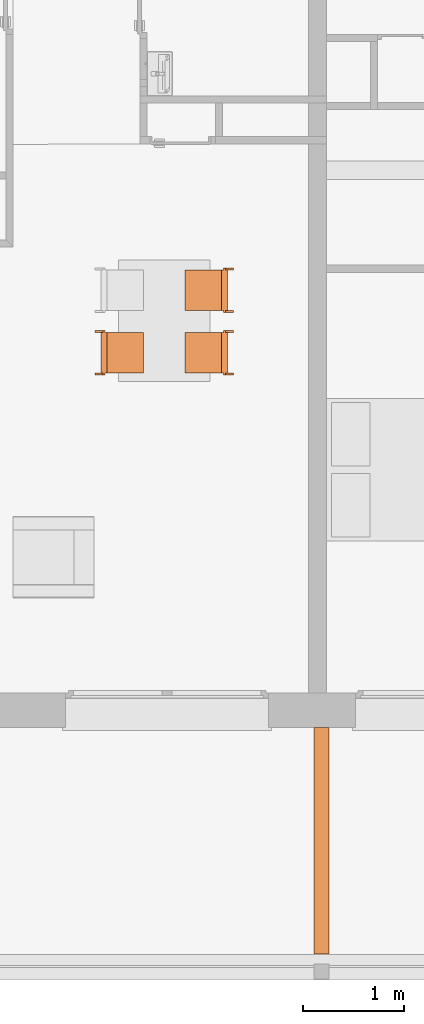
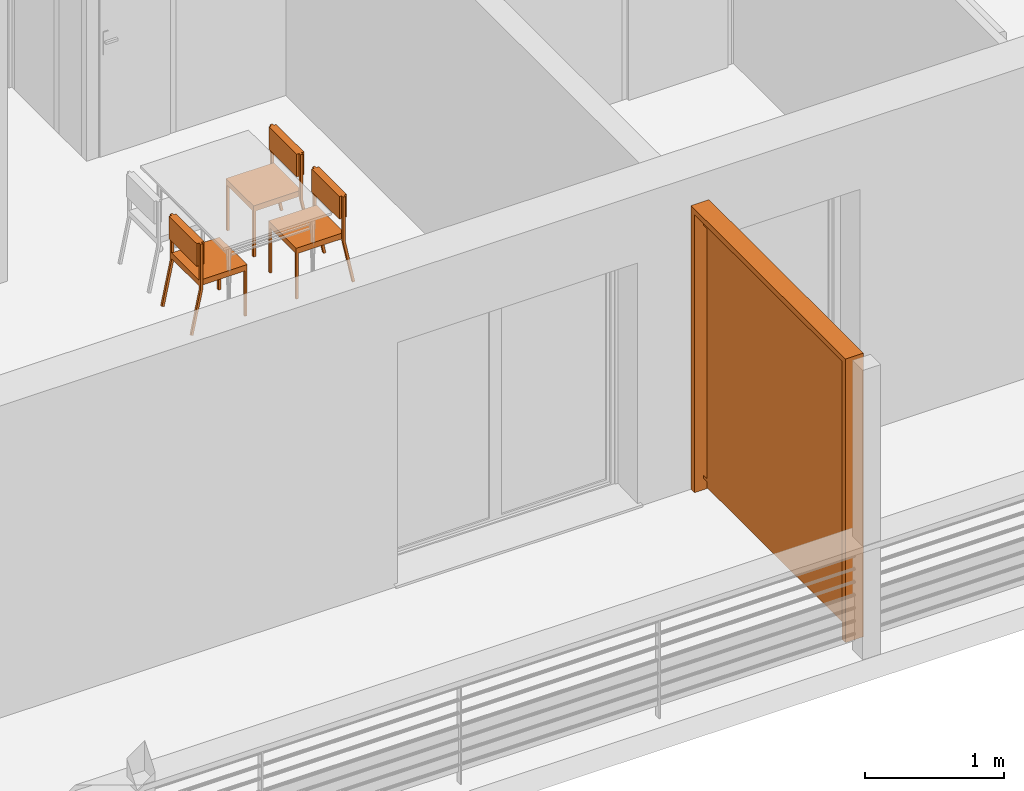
# One storey, part 137 of 164: 4 proxies.
"""IFC2X3 building model written with IfcOpenShell, lengths in millimetres."""

from ifc_helpers import new_model, entity, si_unit, converted_unit, derived_unit, money_unit, direction, frame, origin_with_axes, place, context, subcontext, project, spatial, open_shell, faceted_brep, surface_model, source, transform, mapped, type_object, element, save


model = new_model("IFC2X3")

# Units and contexts
model_context = context("Model", 3, precision=0.01, world=origin_with_axes(), true_north=direction((0.0, 1.0)))
body_context = subcontext(model_context, "Body", "Model", "MODEL_VIEW")
ifc_project = project(units=[si_unit("LENGTHUNIT", "METRE", prefix="MILLI"), si_unit("AREAUNIT", "SQUARE_METRE"), si_unit("VOLUMEUNIT", "CUBIC_METRE"), converted_unit("PLANEANGLEUNIT", "DEGREE", entity("IfcPlaneAngleMeasure", 0.0174532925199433), si_unit("PLANEANGLEUNIT", "RADIAN"), dimensions=[0, 0, 0, 0, 0, 0, 0]), money_unit("USD"), converted_unit("TIMEUNIT", "Year", entity("IfcTimeMeasure", 31557600.0), si_unit("TIMEUNIT", "SECOND"), dimensions=[0, 0, 1, 0, 0, 0, 0]), si_unit("MASSUNIT", "GRAM", prefix="KILO"), si_unit("THERMODYNAMICTEMPERATUREUNIT", "DEGREE_CELSIUS"), si_unit("LUMINOUSINTENSITYUNIT", "LUMEN"), si_unit("ENERGYUNIT", "JOULE", prefix="MEGA"), derived_unit("THERMALCONDUCTANCEUNIT", [(si_unit("POWERUNIT", "WATT"), 1), (si_unit("LENGTHUNIT", "METRE"), -1), (si_unit("THERMODYNAMICTEMPERATUREUNIT", "KELVIN"), -1)]), derived_unit("SPECIFICHEATCAPACITYUNIT", [(si_unit("ENERGYUNIT", "JOULE"), 1), (si_unit("MASSUNIT", "GRAM", prefix="KILO"), -1), (si_unit("THERMODYNAMICTEMPERATUREUNIT", "KELVIN"), -1)]), derived_unit("MASSDENSITYUNIT", [(si_unit("MASSUNIT", "GRAM", prefix="KILO"), 1), (si_unit("VOLUMEUNIT", "CUBIC_METRE"), -1)])], contexts=[model_context])

# Site, building, storey
site_placement = place(None, origin_with_axes())
site = spatial("IfcSite", under=ifc_project, at=site_placement, Name="Site", CompositionType="ELEMENT")
building_placement = place(site_placement, origin_with_axes())
building = spatial("IfcBuilding", under=site, at=building_placement, Name="Bâtiment", CompositionType="ELEMENT")
storey_placement = place(building_placement, frame((0.0, 0.0, 5750.0), z_axis=(0.0, 0.0, 1.0), x_axis=(1.0, 0.0, 0.0)))
storey = spatial("IfcBuildingStorey", under=building, at=storey_placement, Name="Etage1", CompositionType="ELEMENT", Elevation=5750.0)

# Proxies
building_element_proxy_type = type_object("IfcBuildingElementProxyType", PredefinedType="NOTDEFINED")
shared_shape_1 = source(origin_with_axes(), body_context, "Body", "Brep", [
    faceted_brep([(39.99999978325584, 0.0, 0.0), (19.99999989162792, 0.0, 0.0), (19.99999989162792, 19.99999936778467, 0.0), (39.99999978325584, 19.99999936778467, 0.0), (39.99999978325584, 0.0, 400.0), (19.99999989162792, 0.0, 400.0), (19.99999989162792, 19.99999936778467, 400.0), (39.99999978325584, 19.99999936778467, 400.0)], [[[0, 1, 2, 3]], [[1, 0, 4, 5]], [[2, 1, 5, 6]], [[3, 2, 6, 7]], [[0, 3, 7, 4]], [[5, 4, 7, 6]]]),
    faceted_brep([(419.9999977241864, 0.0, 0.0), (399.9999978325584, 0.0, 0.0), (399.9999978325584, 19.99999936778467, 0.0), (419.9999977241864, 19.99999936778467, 0.0), (419.9999977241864, 0.0, 400.0), (399.9999978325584, 0.0, 400.0), (399.9999978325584, 19.99999936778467, 400.0), (419.9999977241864, 19.99999936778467, 400.0)], [[[0, 1, 2, 3]], [[1, 0, 4, 5]], [[2, 1, 5, 6]], [[3, 2, 6, 7]], [[0, 3, 7, 4]], [[5, 4, 7, 6]]]),
    faceted_brep([(399.9999978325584, 0.0, 400.0000000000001), (39.99999978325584, 0.0, 400.0000000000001), (39.99999978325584, 19.99999936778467, 400.0000000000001), (399.9999978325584, 19.99999936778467, 400.0000000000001), (399.9999978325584, 0.0, 420.0000000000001), (39.99999978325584, 0.0, 420.0000000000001), (39.99999978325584, 19.99999936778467, 420.0000000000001), (399.9999978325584, 19.99999936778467, 420.0000000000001)], [[[0, 1, 2, 3]], [[1, 0, 4, 5]], [[2, 1, 5, 6]], [[3, 2, 6, 7]], [[0, 3, 7, 4]], [[5, 4, 7, 6]]]),
    faceted_brep([(39.99999978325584, 19.99999936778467, 400.0000000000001), (19.99999989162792, 19.99999936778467, 400.0000000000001), (19.99999989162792, 379.9999879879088, 400.0000000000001), (39.99999978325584, 379.9999879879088, 400.0000000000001), (39.99999978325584, 19.99999936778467, 420.0000000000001), (19.99999989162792, 19.99999936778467, 420.0000000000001), (19.99999989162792, 379.9999879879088, 420.0000000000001), (39.99999978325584, 379.9999879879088, 420.0000000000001)], [[[0, 1, 2, 3]], [[1, 0, 4, 5]], [[2, 1, 5, 6]], [[3, 2, 6, 7]], [[0, 3, 7, 4]], [[5, 4, 7, 6]]]),
    faceted_brep([(419.9999977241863, 379.9999879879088, 400.0000000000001), (19.99999989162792, 379.9999879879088, 400.0000000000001), (19.99999989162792, 399.9999873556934, 400.0000000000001), (419.9999977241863, 399.9999873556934, 400.0000000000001), (419.9999977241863, 379.9999879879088, 420.0000000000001), (19.99999989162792, 379.9999879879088, 420.0000000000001), (19.99999989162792, 399.9999873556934, 420.0000000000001), (419.9999977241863, 399.9999873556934, 420.0000000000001)], [[[0, 1, 2, 3]], [[1, 0, 4, 5]], [[2, 1, 5, 6]], [[3, 2, 6, 7]], [[0, 3, 7, 4]], [[5, 4, 7, 6]]]),
    faceted_brep([(419.9999977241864, 19.99999936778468, 400.0000000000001), (399.9999978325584, 19.99999936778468, 400.0000000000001), (399.9999978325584, 379.9999879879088, 400.0000000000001), (419.9999977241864, 379.9999879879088, 400.0000000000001), (419.9999977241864, 19.99999936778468, 420.0000000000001), (399.9999978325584, 19.99999936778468, 420.0000000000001), (399.9999978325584, 379.9999879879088, 420.0000000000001), (419.9999977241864, 379.9999879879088, 420.0000000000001)], [[[0, 1, 2, 3]], [[1, 0, 4, 5]], [[2, 1, 5, 6]], [[3, 2, 6, 7]], [[0, 3, 7, 4]], [[5, 4, 7, 6]]]),
    faceted_brep([(419.9999977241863, 0.0, 400.0), (19.99999989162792, 0.0, 400.0), (19.99999989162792, 399.9999873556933, 400.0), (419.9999977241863, 399.9999873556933, 400.0), (419.9999977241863, 0.0, 450.0), (19.99999989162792, 0.0, 450.0), (19.99999989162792, 399.9999873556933, 450.0), (419.9999977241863, 399.9999873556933, 450.0)], [[[0, 1, 2, 3]], [[1, 0, 4, 5]], [[2, 1, 5, 6]], [[3, 2, 6, 7]], [[0, 3, 7, 4]], [[5, 4, 7, 6]]]),
    faceted_brep([(19.99999989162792, 379.9999879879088, 380.0), (0.0, 379.9999879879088, 380.0), (0.0, 399.9999873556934, 380.0), (19.99999989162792, 399.9999873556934, 380.0), (19.99999989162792, 379.9999879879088, 780.0), (0.0, 379.9999879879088, 780.0), (0.0, 399.9999873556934, 780.0), (19.99999989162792, 399.9999873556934, 780.0)], [[[0, 1, 2, 3]], [[1, 0, 4, 5]], [[2, 1, 5, 6]], [[3, 2, 6, 7]], [[0, 3, 7, 4]], [[5, 4, 7, 6]]]),
    faceted_brep([(439.9999976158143, 379.9999879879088, 380.0), (419.9999977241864, 379.9999879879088, 380.0), (419.9999977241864, 399.9999873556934, 380.0), (439.9999976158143, 399.9999873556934, 380.0), (439.9999976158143, 379.9999879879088, 780.0), (419.9999977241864, 379.9999879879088, 780.0), (419.9999977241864, 399.9999873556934, 780.0), (439.9999976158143, 399.9999873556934, 780.0)], [[[0, 1, 2, 3]], [[1, 0, 4, 5]], [[2, 1, 5, 6]], [[3, 2, 6, 7]], [[0, 3, 7, 4]], [[5, 4, 7, 6]]]),
    faceted_brep([(419.9999977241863, 359.999988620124, 580.0000000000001), (19.99999989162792, 359.999988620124, 580.0000000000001), (19.99999989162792, 419.9999867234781, 580.0000000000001), (419.9999977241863, 419.9999867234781, 580.0000000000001), (419.9999977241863, 359.999988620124, 780.0), (19.99999989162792, 359.999988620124, 780.0), (19.99999989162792, 419.9999867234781, 780.0), (419.9999977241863, 419.9999867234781, 780.0)], [[[0, 1, 2, 3]], [[1, 0, 4, 5]], [[2, 1, 5, 6]], [[3, 2, 6, 7]], [[0, 3, 7, 4]], [[5, 4, 7, 6]]]),
    faceted_brep([(19.99999989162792, 459.9999854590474, 0.0), (0.0, 459.9999854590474, 0.0), (0.0, 479.5709559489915, 4.120326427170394), (19.99999989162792, 479.5709559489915, 4.120326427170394), (19.99999989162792, 379.997669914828, 379.999760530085), (0.0, 379.997669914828, 379.999760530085), (0.0, 399.5686404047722, 384.1200869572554), (19.99999989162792, 399.5686404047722, 384.1200869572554)], [[[0, 1, 2, 3]], [[1, 0, 4, 5]], [[2, 1, 5, 6]], [[3, 2, 6, 7]], [[0, 3, 7, 4]], [[5, 4, 7, 6]]]),
    faceted_brep([(439.9999976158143, 459.9999854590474, 0.0), (419.9999977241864, 459.9999854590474, 0.0), (419.9999977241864, 479.5709559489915, 4.120326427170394), (439.9999976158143, 479.5709559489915, 4.120326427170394), (439.9999976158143, 379.997669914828, 379.999760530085), (419.9999977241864, 379.997669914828, 379.999760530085), (419.9999977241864, 399.5686404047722, 384.1200869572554), (439.9999976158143, 399.5686404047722, 384.1200869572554)], [[[0, 1, 2, 3]], [[1, 0, 4, 5]], [[2, 1, 5, 6]], [[3, 2, 6, 7]], [[0, 3, 7, 4]], [[5, 4, 7, 6]]]),
])
for number, where, z_axis, x_axis, name in (
    (1, (2222914.021640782, -653288.6399562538, 0.0), (0.0, 0.0, 1.0), (-8.510155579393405e-05, -0.9999999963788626, 0.0), "Obj.-027"),
    (2, (2222913.96929268, -653903.7653589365, 0.0), (0.0, 0.0, 1.0), (-8.510155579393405e-05, -0.9999999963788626, 0.0), "Obj.-027"),
):
    element("IfcBuildingElementProxy", number, at=place(storey_placement, frame(where, z_axis=z_axis, x_axis=x_axis)), inside=storey, type_object=building_element_proxy_type, Name=name, context=body_context, shape_type="MappedRepresentation", body=[
        mapped(shared_shape_1, transform((0.0, 0.0, 0.0))),
    ])
shared_shape_2 = source(origin_with_axes(), body_context, "Body", "Brep", [
    faceted_brep([(-39.99999978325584, 0.0, 0.0), (-39.99999978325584, 19.99999936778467, 0.0), (-19.99999989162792, 19.99999936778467, 0.0), (-19.99999989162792, 0.0, 0.0), (-39.99999978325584, 0.0, 400.0), (-39.99999978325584, 19.99999936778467, 400.0), (-19.99999989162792, 19.99999936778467, 400.0), (-19.99999989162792, 0.0, 400.0)], [[[0, 1, 2, 3]], [[0, 4, 5, 1]], [[1, 5, 6, 2]], [[2, 6, 7, 3]], [[3, 7, 4, 0]], [[7, 6, 5, 4]]]),
    faceted_brep([(-419.9999977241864, 0.0, 0.0), (-419.9999977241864, 19.99999936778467, 0.0), (-399.9999978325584, 19.99999936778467, 0.0), (-399.9999978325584, 0.0, 0.0), (-419.9999977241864, 0.0, 400.0), (-419.9999977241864, 19.99999936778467, 400.0), (-399.9999978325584, 19.99999936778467, 400.0), (-399.9999978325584, 0.0, 400.0)], [[[0, 1, 2, 3]], [[0, 4, 5, 1]], [[1, 5, 6, 2]], [[2, 6, 7, 3]], [[3, 7, 4, 0]], [[7, 6, 5, 4]]]),
    faceted_brep([(-399.9999978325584, 0.0, 400.0000000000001), (-399.9999978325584, 19.99999936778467, 400.0000000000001), (-39.99999978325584, 19.99999936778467, 400.0000000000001), (-39.99999978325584, 0.0, 400.0000000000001), (-399.9999978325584, 0.0, 420.0000000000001), (-399.9999978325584, 19.99999936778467, 420.0000000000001), (-39.99999978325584, 19.99999936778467, 420.0000000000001), (-39.99999978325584, 0.0, 420.0000000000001)], [[[0, 1, 2, 3]], [[0, 4, 5, 1]], [[1, 5, 6, 2]], [[2, 6, 7, 3]], [[3, 7, 4, 0]], [[7, 6, 5, 4]]]),
    faceted_brep([(-39.99999978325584, 19.99999936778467, 400.0000000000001), (-39.99999978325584, 379.9999879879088, 400.0000000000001), (-19.99999989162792, 379.9999879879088, 400.0000000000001), (-19.99999989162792, 19.99999936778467, 400.0000000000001), (-39.99999978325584, 19.99999936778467, 420.0000000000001), (-39.99999978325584, 379.9999879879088, 420.0000000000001), (-19.99999989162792, 379.9999879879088, 420.0000000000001), (-19.99999989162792, 19.99999936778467, 420.0000000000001)], [[[0, 1, 2, 3]], [[0, 4, 5, 1]], [[1, 5, 6, 2]], [[2, 6, 7, 3]], [[3, 7, 4, 0]], [[7, 6, 5, 4]]]),
    faceted_brep([(-419.9999977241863, 379.9999879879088, 400.0000000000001), (-419.9999977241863, 399.9999873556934, 400.0000000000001), (-19.99999989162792, 399.9999873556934, 400.0000000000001), (-19.99999989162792, 379.9999879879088, 400.0000000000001), (-419.9999977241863, 379.9999879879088, 420.0000000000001), (-419.9999977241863, 399.9999873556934, 420.0000000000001), (-19.99999989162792, 399.9999873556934, 420.0000000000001), (-19.99999989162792, 379.9999879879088, 420.0000000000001)], [[[0, 1, 2, 3]], [[0, 4, 5, 1]], [[1, 5, 6, 2]], [[2, 6, 7, 3]], [[3, 7, 4, 0]], [[7, 6, 5, 4]]]),
    faceted_brep([(-419.9999977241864, 19.99999936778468, 400.0000000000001), (-419.9999977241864, 379.9999879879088, 400.0000000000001), (-399.9999978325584, 379.9999879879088, 400.0000000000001), (-399.9999978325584, 19.99999936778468, 400.0000000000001), (-419.9999977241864, 19.99999936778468, 420.0000000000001), (-419.9999977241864, 379.9999879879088, 420.0000000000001), (-399.9999978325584, 379.9999879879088, 420.0000000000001), (-399.9999978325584, 19.99999936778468, 420.0000000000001)], [[[0, 1, 2, 3]], [[0, 4, 5, 1]], [[1, 5, 6, 2]], [[2, 6, 7, 3]], [[3, 7, 4, 0]], [[7, 6, 5, 4]]]),
    faceted_brep([(-419.9999977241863, 0.0, 400.0), (-419.9999977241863, 399.9999873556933, 400.0), (-19.99999989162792, 399.9999873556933, 400.0), (-19.99999989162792, 0.0, 400.0), (-419.9999977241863, 0.0, 450.0), (-419.9999977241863, 399.9999873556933, 450.0), (-19.99999989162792, 399.9999873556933, 450.0), (-19.99999989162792, 0.0, 450.0)], [[[0, 1, 2, 3]], [[0, 4, 5, 1]], [[1, 5, 6, 2]], [[2, 6, 7, 3]], [[3, 7, 4, 0]], [[7, 6, 5, 4]]]),
    faceted_brep([(-19.99999989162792, 379.9999879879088, 380.0), (-19.99999989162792, 399.9999873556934, 380.0), (0.0, 399.9999873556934, 380.0), (0.0, 379.9999879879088, 380.0), (-19.99999989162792, 379.9999879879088, 780.0), (-19.99999989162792, 399.9999873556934, 780.0), (0.0, 399.9999873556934, 780.0), (0.0, 379.9999879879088, 780.0)], [[[0, 1, 2, 3]], [[0, 4, 5, 1]], [[1, 5, 6, 2]], [[2, 6, 7, 3]], [[3, 7, 4, 0]], [[7, 6, 5, 4]]]),
    faceted_brep([(-439.9999976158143, 379.9999879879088, 380.0), (-439.9999976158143, 399.9999873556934, 380.0), (-419.9999977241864, 399.9999873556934, 380.0), (-419.9999977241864, 379.9999879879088, 380.0), (-439.9999976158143, 379.9999879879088, 780.0), (-439.9999976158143, 399.9999873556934, 780.0), (-419.9999977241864, 399.9999873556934, 780.0), (-419.9999977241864, 379.9999879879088, 780.0)], [[[0, 1, 2, 3]], [[0, 4, 5, 1]], [[1, 5, 6, 2]], [[2, 6, 7, 3]], [[3, 7, 4, 0]], [[7, 6, 5, 4]]]),
    faceted_brep([(-419.9999977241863, 359.999988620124, 580.0000000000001), (-419.9999977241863, 419.9999867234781, 580.0000000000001), (-19.99999989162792, 419.9999867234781, 580.0000000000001), (-19.99999989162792, 359.999988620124, 580.0000000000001), (-419.9999977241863, 359.999988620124, 780.0), (-419.9999977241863, 419.9999867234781, 780.0), (-19.99999989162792, 419.9999867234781, 780.0), (-19.99999989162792, 359.999988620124, 780.0)], [[[0, 1, 2, 3]], [[0, 4, 5, 1]], [[1, 5, 6, 2]], [[2, 6, 7, 3]], [[3, 7, 4, 0]], [[7, 6, 5, 4]]]),
    faceted_brep([(-19.99999989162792, 459.9999854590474, 0.0), (-19.99999989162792, 479.5709559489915, 4.120326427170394), (0.0, 479.5709559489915, 4.120326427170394), (0.0, 459.9999854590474, 0.0), (-19.99999989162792, 379.997669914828, 379.999760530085), (-19.99999989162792, 399.5686404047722, 384.1200869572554), (0.0, 399.5686404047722, 384.1200869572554), (0.0, 379.997669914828, 379.999760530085)], [[[0, 1, 2, 3]], [[0, 4, 5, 1]], [[1, 5, 6, 2]], [[2, 6, 7, 3]], [[3, 7, 4, 0]], [[7, 6, 5, 4]]]),
    faceted_brep([(-439.9999976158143, 459.9999854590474, 0.0), (-439.9999976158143, 479.5709559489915, 4.120326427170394), (-419.9999977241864, 479.5709559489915, 4.120326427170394), (-419.9999977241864, 459.9999854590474, 0.0), (-439.9999976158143, 379.997669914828, 379.999760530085), (-439.9999976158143, 399.5686404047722, 384.1200869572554), (-419.9999977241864, 399.5686404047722, 384.1200869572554), (-419.9999977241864, 379.997669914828, 379.999760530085)], [[[0, 1, 2, 3]], [[0, 4, 5, 1]], [[1, 5, 6, 2]], [[2, 6, 7, 3]], [[3, 7, 4, 0]], [[7, 6, 5, 4]]]),
])
proxy_1_placement = place(storey_placement, frame((2222505.911910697, -653903.7306325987, 0.0), z_axis=(0.0, 0.0, 1.0), x_axis=(8.510155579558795e-05, 0.9999999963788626, 0.0)))
element("IfcBuildingElementProxy", 3, at=proxy_1_placement, inside=storey, type_object=building_element_proxy_type, Name="Obj.-027", context=body_context, shape_type="MappedRepresentation", body=[
    mapped(shared_shape_2, transform((0.0, 0.0, 0.0))),
])
shared_shape_3 = source(origin_with_axes(), body_context, "Body", "SurfaceModel", [
    faceted_brep([(2229.780082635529, 0.0, 2449.999999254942), (0.0, 0.0, 2449.999999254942), (0.0, 150.0, 2449.999999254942), (2229.780082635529, 150.0, 2449.999999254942), (2229.780082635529, 0.0, 2500.0), (0.0, 0.0, 2500.0), (0.0, 150.0, 2500.0), (2229.780082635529, 150.0, 2500.0)], [[[0, 1, 2, 3]], [[1, 0, 4, 5]], [[2, 1, 5, 6]], [[3, 2, 6, 7]], [[0, 3, 7, 4]], [[5, 4, 7, 6]]]),
    faceted_brep([(50.00000074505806, 0.0, 0.0), (0.0, 0.0, 0.0), (0.0, 150.0, 0.0), (50.00000074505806, 150.0, 0.0), (50.00000074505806, 0.0, 2449.999999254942), (0.0, 0.0, 2449.999999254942), (0.0, 150.0, 2449.999999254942), (50.00000074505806, 150.0, 2449.999999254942)], [[[0, 1, 2, 3]], [[1, 0, 4, 5]], [[2, 1, 5, 6]], [[3, 2, 6, 7]], [[0, 3, 7, 4]], [[5, 4, 7, 6]]]),
    faceted_brep([(2229.780082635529, 0.0, 0.0), (2179.780081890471, 0.0, 0.0), (2179.780081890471, 150.0, 0.0), (2229.780082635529, 150.0, 0.0), (2229.780082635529, 0.0, 2449.999999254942), (2179.780081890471, 0.0, 2449.999999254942), (2179.780081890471, 150.0, 2449.999999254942), (2229.780082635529, 150.0, 2449.999999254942)], [[[0, 1, 2, 3]], [[1, 0, 4, 5]], [[2, 1, 5, 6]], [[3, 2, 6, 7]], [[0, 3, 7, 4]], [[5, 4, 7, 6]]]),
    surface_model("IfcShellBasedSurfaceModel", [(100.0000007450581, 75.0, 50.0), (2129.78008189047, 75.0, 50.0), (2129.78008189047, 75.00000000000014, 2399.999999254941), (100.0000007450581, 75.00000000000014, 2399.999999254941)], [open_shell([[[0, 1, 2, 3]]])]),
    surface_model("IfcShellBasedSurfaceModel", [(50.00000074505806, 75.0, 100.0), (120.0000007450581, 75.0, 100.0), (120.0000007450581, 75.0, 130.0), (50.00000074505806, 75.0, 130.0)], [open_shell([[[0, 1, 2, 3]]])]),
    surface_model("IfcShellBasedSurfaceModel", [(50.00000074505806, 75.00000000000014, 2329.999999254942), (120.0000007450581, 75.00000000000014, 2329.999999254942), (120.0000007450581, 75.00000000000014, 2359.999999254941), (50.00000074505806, 75.00000000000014, 2359.999999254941)], [open_shell([[[0, 1, 2, 3]]])]),
    surface_model("IfcShellBasedSurfaceModel", [(2109.780081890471, 75.00000000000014, 2329.999999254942), (2179.780081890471, 75.00000000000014, 2329.999999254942), (2179.780081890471, 75.00000000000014, 2359.999999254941), (2109.780081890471, 75.00000000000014, 2359.999999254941)], [open_shell([[[0, 1, 2, 3]]])]),
    surface_model("IfcShellBasedSurfaceModel", [(2109.780081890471, 75.0, 99.99999999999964), (2179.780081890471, 75.0, 99.99999999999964), (2179.780081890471, 75.0, 129.9999999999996), (2109.780081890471, 75.0, 129.9999999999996)], [open_shell([[[0, 1, 2, 3]]])]),
])
proxy_2_placement = place(storey_placement, frame((2224337.596298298, -660048.1031596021, 0.0), z_axis=(0.0, 0.0, 1.0), x_axis=(0.0, 1.0, 0.0)))
element("IfcBuildingElementProxy", 4, at=proxy_2_placement, inside=storey, type_object=building_element_proxy_type, Name="Obj.-034", context=body_context, shape_type="MappedRepresentation", body=[
    mapped(shared_shape_3, transform((0.0, 0.0, 0.0))),
])

save(model, "model.ifc")
